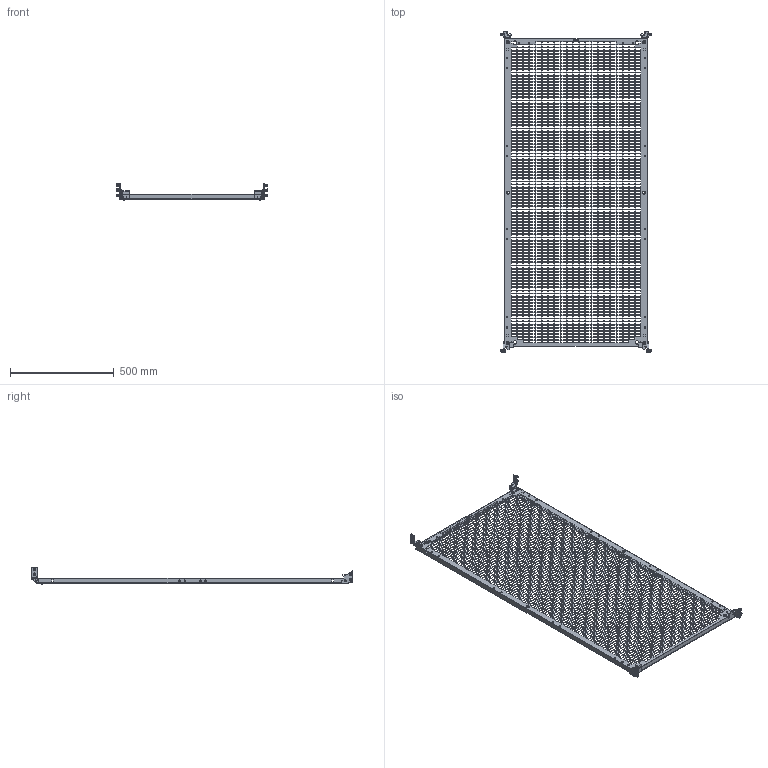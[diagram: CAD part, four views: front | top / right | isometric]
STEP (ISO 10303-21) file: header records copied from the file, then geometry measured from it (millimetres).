
FILE_DESCRIPTION (( 'STEP AP203' ), '1' );
FILE_NAME ('R5NPCEP1680.STEP', '2025-03-26T09:02:11', ( '' ), ( '' ), 'SwSTEP 2.0', 'SolidWorks 2022', '' );
FILE_SCHEMA (( 'CONFIG_CONTROL_DESIGN' ));
Length unit declared in the file: millimetre
Products named in the file (20): RB.2709.00.00.0; М6 D87181 Zinc_In a tightened position (1.5 mm); RB.2684.00.01.0; RB.2628.00.00.0_-15; AC00C237; R5NPCEP1680; RB.2814.00.00.0 СБ; RB.2684.00.00.0 СБ; RB.2814.00.01.0; M6x16 DIN 7985 Torx cl.8,8 Zinc_stright; RB.1499.00.03.0; RB.2814.00.01.0_-01; M6 MGR-MKO-0625_1,5mm (thread); RB.2684.00.01.0_-01; RB.2697.00.00.0; 003-006-19 GOST 9833-73; RB.2684.00.03.0; RB.2684.00.00.0 СБ_-01; RB.2814.00.00.0 СБ_-01; M6x16 DIN 912 HX cl.4,8 Zinc_thread
Assembly tree (43 placements, depth 3):
  R5NPCEP1680
    RB.2628.00.00.0_-15
    RB.2814.00.00.0 СБ_-01
      RB.2814.00.01.0_-01
      M6 MGR-MKO-0625_1,5mm (thread)
    RB.2814.00.00.0 СБ
      RB.2814.00.01.0
      M6 MGR-MKO-0625_1,5mm (thread)
    M6x16 DIN 912 HX cl.4,8 Zinc_thread  x2
    AC00C237  x2
    RB.2684.00.00.0 СБ_-01
      RB.2684.00.01.0_-01
      RB.2684.00.03.0
      RB.1499.00.03.0
      RB.2697.00.00.0
      003-006-19 GOST 9833-73  x2
    RB.2684.00.00.0 СБ
      RB.2684.00.01.0
      RB.2684.00.03.0
      RB.1499.00.03.0
      003-006-19 GOST 9833-73  x2
      RB.2697.00.00.0
    M6x16 DIN 7985 Torx cl.8,8 Zinc_stright  x8
    М6 D87181 Zinc_In a tightened position (1.5 mm)  x8
    RB.2709.00.00.0  x2
Bounding box: 728.3 x 1550.46 x 84.5 mm (x, y, z)
Volume: 1602432 mm3; surface area: 1675220.9 mm2
Topology: 39 solids, 39 shells, 10359 faces, 30322 edges, 19972 vertices
Faces by surface type: plane 9218, cylinder 514, bspline 301, cone 186, torus 132, sphere 8
Full cylindrical faces by diameter (mm): 0.6 x12, 2.3 x4, 2.5 x4, 3.8 x6, 4 x2, 4.2 x4, 4.92 x14, 5 x16, 6 x60, 6.5 x8, 6.7 x2, 7 x12, 7.5 x2, 8 x4, 8.3 x8, 9 x6, 10 x4, 12 x26, 15 x6
Entity records: 306367 total; most frequent: CARTESIAN_POINT 57095, ORIENTED_EDGE 52524, DIRECTION 44343, EDGE_CURVE 26262, VECTOR 25633, LINE 25633, VERTEX_POINT 17576, EDGE_LOOP 13360
